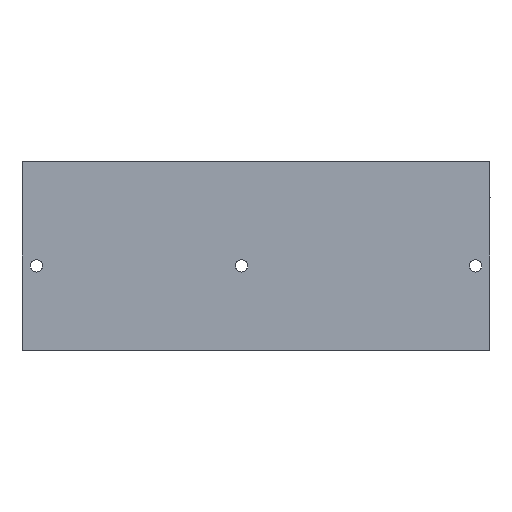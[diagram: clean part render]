
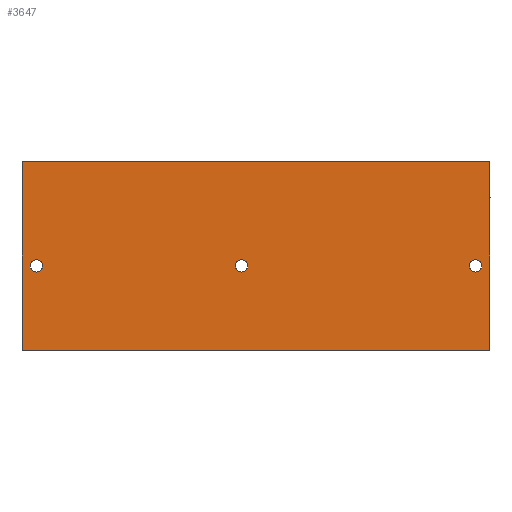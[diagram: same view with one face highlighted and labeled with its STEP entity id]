
A CAD part, front view. The second image highlights one B-rep face of the part: STEP entity #3647.
In plain terms, the highlighted planar face has unit normal (0, -1, 0).
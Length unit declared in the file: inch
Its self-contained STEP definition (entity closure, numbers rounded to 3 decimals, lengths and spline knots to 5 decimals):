
#280 = AXIS2_PLACEMENT_3D ( 'NONE', #1074, #1039, #1031 ) ;
#423 = VECTOR ( 'NONE', #3178, 39.37008 ) ;
#1031 = DIRECTION ( 'NONE',  ( 0., 0., 1. ) ) ;
#1039 = DIRECTION ( 'NONE',  ( 0., 1., 0. ) ) ;
#1074 = CARTESIAN_POINT ( 'NONE',  ( 6.1, 0., -2.9 ) ) ;
#1150 = ORIENTED_EDGE ( 'NONE', *, *, #20277, .T. ) ;
#1360 = CARTESIAN_POINT ( 'NONE',  ( 6.1, 0., -3.072 ) ) ;
#1664 = VERTEX_POINT ( 'NONE', #7711 ) ;
#1683 = CIRCLE ( 'NONE', #10877, 0.172 ) ;
#2075 = ORIENTED_EDGE ( 'NONE', *, *, #16063, .F. ) ;
#2204 = AXIS2_PLACEMENT_3D ( 'NONE', #4755, #18284, #6731 ) ;
#3001 = DIRECTION ( 'NONE',  ( 0., 1., 0. ) ) ;
#3178 = DIRECTION ( 'NONE',  ( 0., 0., -1. ) ) ;
#3639 = ORIENTED_EDGE ( 'NONE', *, *, #21183, .T. ) ;
#3647 = ADVANCED_FACE ( 'NONE', ( #17379, #14080, #7741, #17979 ), #15103, .F. ) ;
#3868 = DIRECTION ( 'NONE',  ( 0., 0., -1. ) ) ;
#4270 = ORIENTED_EDGE ( 'NONE', *, *, #15896, .T. ) ;
#4366 = EDGE_LOOP ( 'NONE', ( #13414, #19395 ) ) ;
#4755 = CARTESIAN_POINT ( 'NONE',  ( 0.4, 0., -2.9 ) ) ;
#5176 = ORIENTED_EDGE ( 'NONE', *, *, #15757, .T. ) ;
#5792 = AXIS2_PLACEMENT_3D ( 'NONE', #14915, #14759, #14754 ) ;
#6731 = DIRECTION ( 'NONE',  ( 0., 0., 1. ) ) ;
#6775 = EDGE_CURVE ( 'NONE', #23359, #13679, #20908, .T. ) ;
#7711 = CARTESIAN_POINT ( 'NONE',  ( 0., 0., -5.25 ) ) ;
#7741 = FACE_BOUND ( 'NONE', #10824, .T. ) ;
#7909 = AXIS2_PLACEMENT_3D ( 'NONE', #10272, #23775, #12200 ) ;
#8126 = CARTESIAN_POINT ( 'NONE',  ( 0.4, 0., -3.072 ) ) ;
#8129 = VERTEX_POINT ( 'NONE', #13777 ) ;
#8180 = VERTEX_POINT ( 'NONE', #8126 ) ;
#8544 = CARTESIAN_POINT ( 'NONE',  ( 12.6, 0., -3.072 ) ) ;
#8720 = AXIS2_PLACEMENT_3D ( 'NONE', #10590, #24099, #12523 ) ;
#8830 = CARTESIAN_POINT ( 'NONE',  ( 0., 0., 0. ) ) ;
#9417 = CIRCLE ( 'NONE', #8720, 0.172 ) ;
#9707 = LINE ( 'NONE', #20946, #15381 ) ;
#9833 = CIRCLE ( 'NONE', #7909, 0.172 ) ;
#10043 = AXIS2_PLACEMENT_3D ( 'NONE', #21978, #10419, #23930 ) ;
#10272 = CARTESIAN_POINT ( 'NONE',  ( 12.6, 0., -2.9 ) ) ;
#10346 = VECTOR ( 'NONE', #20890, 39.37008 ) ;
#10419 = DIRECTION ( 'NONE',  ( 0., 1., 0. ) ) ;
#10590 = CARTESIAN_POINT ( 'NONE',  ( 0.4, 0., -2.9 ) ) ;
#10824 = EDGE_LOOP ( 'NONE', ( #23085, #3639 ) ) ;
#10877 = AXIS2_PLACEMENT_3D ( 'NONE', #14683, #3001, #16614 ) ;
#11374 = VERTEX_POINT ( 'NONE', #24457 ) ;
#12200 = DIRECTION ( 'NONE',  ( 0., 0., 1. ) ) ;
#12383 = CARTESIAN_POINT ( 'NONE',  ( 13., 0., -5.25 ) ) ;
#12411 = VERTEX_POINT ( 'NONE', #15342 ) ;
#12523 = DIRECTION ( 'NONE',  ( 0., 0., 1. ) ) ;
#13414 = ORIENTED_EDGE ( 'NONE', *, *, #15721, .T. ) ;
#13679 = VERTEX_POINT ( 'NONE', #15962 ) ;
#13777 = CARTESIAN_POINT ( 'NONE',  ( 0.4, 0., -2.728 ) ) ;
#14080 = FACE_BOUND ( 'NONE', #22585, .T. ) ;
#14683 = CARTESIAN_POINT ( 'NONE',  ( 12.6, 0., -2.9 ) ) ;
#14709 = VERTEX_POINT ( 'NONE', #8544 ) ;
#14754 = DIRECTION ( 'NONE',  ( 0., 0., 1. ) ) ;
#14759 = DIRECTION ( 'NONE',  ( 0., 1., 0. ) ) ;
#14849 = CARTESIAN_POINT ( 'NONE',  ( 0., 0., 0. ) ) ;
#14915 = CARTESIAN_POINT ( 'NONE',  ( 13., 0., 0. ) ) ;
#15037 = CARTESIAN_POINT ( 'NONE',  ( 13., 0., 0. ) ) ;
#15103 = PLANE ( 'NONE',  #5792 ) ;
#15190 = VERTEX_POINT ( 'NONE', #12383 ) ;
#15342 = CARTESIAN_POINT ( 'NONE',  ( 13., 0., 0. ) ) ;
#15381 = VECTOR ( 'NONE', #18968, 39.37008 ) ;
#15438 = EDGE_CURVE ( 'NONE', #12411, #19803, #16037, .T. ) ;
#15480 = CARTESIAN_POINT ( 'NONE',  ( 13., 0., 0. ) ) ;
#15721 = EDGE_CURVE ( 'NONE', #13679, #23359, #24235, .T. ) ;
#15757 = EDGE_CURVE ( 'NONE', #8129, #8180, #9417, .T. ) ;
#15857 = EDGE_CURVE ( 'NONE', #11374, #14709, #1683, .T. ) ;
#15896 = EDGE_CURVE ( 'NONE', #19803, #1664, #16010, .T. ) ;
#15962 = CARTESIAN_POINT ( 'NONE',  ( 6.1, 0., -2.728 ) ) ;
#15985 = EDGE_CURVE ( 'NONE', #15190, #1664, #9707, .T. ) ;
#16010 = LINE ( 'NONE', #14849, #423 ) ;
#16037 = LINE ( 'NONE', #15037, #10346 ) ;
#16063 = EDGE_CURVE ( 'NONE', #12411, #15190, #22699, .T. ) ;
#16409 = ORIENTED_EDGE ( 'NONE', *, *, #15985, .F. ) ;
#16614 = DIRECTION ( 'NONE',  ( 0., 0., 1. ) ) ;
#17379 = FACE_BOUND ( 'NONE', #4366, .T. ) ;
#17509 = VECTOR ( 'NONE', #3868, 39.37008 ) ;
#17979 = FACE_OUTER_BOUND ( 'NONE', #18618, .T. ) ;
#18283 = CIRCLE ( 'NONE', #2204, 0.172 ) ;
#18284 = DIRECTION ( 'NONE',  ( 0., 1., 0. ) ) ;
#18618 = EDGE_LOOP ( 'NONE', ( #4270, #16409, #2075, #24017 ) ) ;
#18968 = DIRECTION ( 'NONE',  ( -1., 0., 0. ) ) ;
#19395 = ORIENTED_EDGE ( 'NONE', *, *, #6775, .T. ) ;
#19803 = VERTEX_POINT ( 'NONE', #8830 ) ;
#20277 = EDGE_CURVE ( 'NONE', #8180, #8129, #18283, .T. ) ;
#20890 = DIRECTION ( 'NONE',  ( -1., 0., 0. ) ) ;
#20908 = CIRCLE ( 'NONE', #280, 0.172 ) ;
#20946 = CARTESIAN_POINT ( 'NONE',  ( 13., 0., -5.25 ) ) ;
#21183 = EDGE_CURVE ( 'NONE', #14709, #11374, #9833, .T. ) ;
#21978 = CARTESIAN_POINT ( 'NONE',  ( 6.1, 0., -2.9 ) ) ;
#22585 = EDGE_LOOP ( 'NONE', ( #5176, #1150 ) ) ;
#22699 = LINE ( 'NONE', #15480, #17509 ) ;
#23085 = ORIENTED_EDGE ( 'NONE', *, *, #15857, .T. ) ;
#23359 = VERTEX_POINT ( 'NONE', #1360 ) ;
#23775 = DIRECTION ( 'NONE',  ( 0., 1., 0. ) ) ;
#23930 = DIRECTION ( 'NONE',  ( 0., 0., 1. ) ) ;
#24017 = ORIENTED_EDGE ( 'NONE', *, *, #15438, .T. ) ;
#24099 = DIRECTION ( 'NONE',  ( 0., 1., 0. ) ) ;
#24235 = CIRCLE ( 'NONE', #10043, 0.172 ) ;
#24457 = CARTESIAN_POINT ( 'NONE',  ( 12.6, 0., -2.728 ) ) ;
